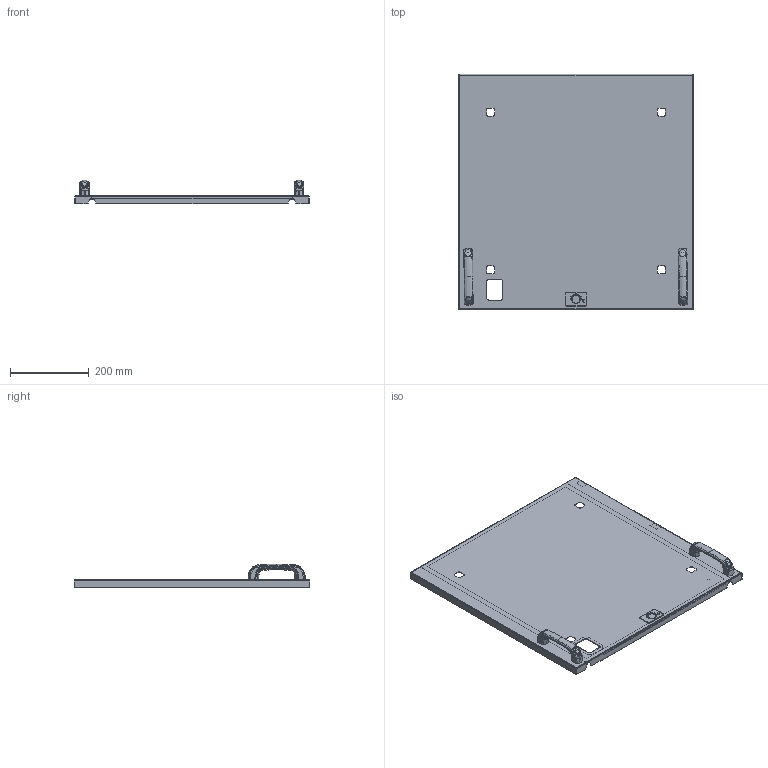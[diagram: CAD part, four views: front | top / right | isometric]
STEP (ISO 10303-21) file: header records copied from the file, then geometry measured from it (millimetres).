
FILE_DESCRIPTION(('CAx-IF Rec.Pracs.---Model Styling and Organization---1.2---2011-12-15','CAx-IF Rec.Pracs.---Geometric and Assembly Validation Properties---4.1---2014-06-16','CAx-IF Rec.Pracs.---PMI Polyline Presentation---2.0---2013-05-24'),'2;1');
FILE_NAME('R5M2W12M1BF-L.stp','2021-05-05T12:41:07+03:00',(''),(''),'STEP Interface 4.4 by CT CoreTechnologie','3D_Evolution4.4 by CT CoreTechnologie','');
FILE_SCHEMA(('AUTOMOTIVE_DESIGN { 1 0 10303 214 1 1 1 1 }'));
Length unit declared in the file: millimetre
Products named in the file (14): R5M2W12M1BF-L; 4.444.002; PR.DT477.120.02-poprawa; PR.DT477.120.01; AC00C148_AC00C148; Ì5-GOST 5915-70 (DIN 934)_straight; RB.1942.00.00.0_-05; RB.1166.00.05.0; PF 3.5x7 RAMmcc 2.0_00; Ì6õ12-A5100231_straight; PF 7x14 RAMmcc 2.0_121; RB.1166.00.04.0_-00; RB.1166.00.02.0_¢ à 1; RB.1942.00.01.0_-05
Assembly tree (18 placements, depth 3):
  R5M2W12M1BF-L
    4.444.002  x2
      PR.DT477.120.02-poprawa
      PR.DT477.120.01
    AC00C148_AC00C148  x2
    Ì5-GOST 5915-70 (DIN 934)_straight
    RB.1942.00.00.0_-05
      RB.1166.00.05.0  x3
      PF 3.5x7 RAMmcc 2.0_00
      Ì6õ12-A5100231_straight
      PF 7x14 RAMmcc 2.0_121
      RB.1166.00.04.0_-00
      RB.1166.00.02.0_¢ à 1
      RB.1942.00.01.0_-05
Bounding box: 594 x 597 x 60 mm (x, y, z)
Surface area: 927583.4 mm2 (no closed solid volume)
Topology: 0 solids, 21 shells, 1940 faces, 4844 edges, 2923 vertices
Faces by surface type: bspline 996, plane 589, cylinder 355
Entity records: 41740 total; most frequent: CARTESIAN_POINT 18877, ORIENTED_EDGE 4876, DIRECTION 4439, EDGE_CURVE 2438, AXIS2_PLACEMENT_3D 1672, VERTEX_POINT 1494, CIRCLE 1155, VECTOR 1095
